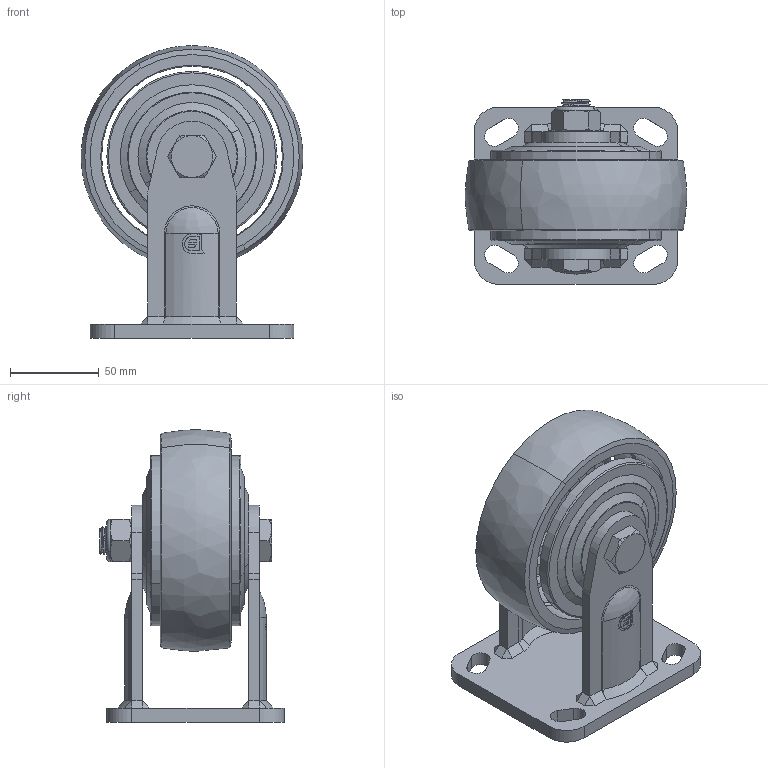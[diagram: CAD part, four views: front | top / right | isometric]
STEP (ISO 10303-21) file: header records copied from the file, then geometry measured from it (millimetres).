
FILE_DESCRIPTION((''),'2;1');
FILE_NAME('PRT0002','2025-05-20T08:36:42',('Administrator'),(''),'CREO PARAMETRIC BY PTC INC, 2024325','CREO PARAMETRIC BY PTC INC, 2024325','');
FILE_SCHEMA(('CONFIG_CONTROL_DESIGN','GEOMETRIC_VALIDATION_PROPERTIES_MIM'));
Length unit declared in the file: millimetre
Products named in the file (1): PRT0002
Bounding box: 125 x 104 x 165 mm (x, y, z)
Surface area: 105463.2 mm2 (no closed solid volume)
Topology: 0 solids, 20 shells, 175 faces, 520 edges, 366 vertices
Faces by surface type: plane 68, cylinder 47, cone 34, torus 14, bspline 12
Entity records: 9548 total; most frequent: CARTESIAN_POINT 3791, DIRECTION 892, ORIENTED_EDGE 831, EDGE_CURVE 520, VERTEX_POINT 366, AXIS2_PLACEMENT_3D 326, VECTOR 240, LINE 240
